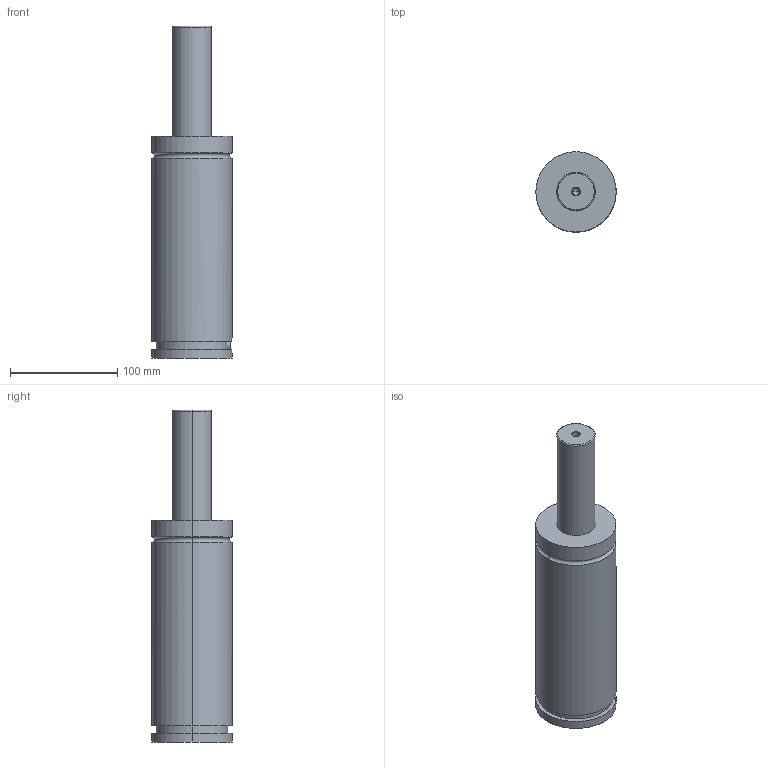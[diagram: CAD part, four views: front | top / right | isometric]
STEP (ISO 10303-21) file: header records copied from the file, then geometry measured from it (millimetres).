
FILE_DESCRIPTION(/* description */ (''),/* implementation_level */ '2;1');
FILE_NAME(/* name */ '3d_gse75-100_03852_r00.stp',/* time_stamp */ '2011-01-10T14:15:18+09:00',/* author */ ('MISUMI'),/* organization */ (''),/* preprocessor_version */ 'ST-DEVELOPER v11',/* originating_system */ 'UGS - NX 5.0',/* authorisation */ '');
FILE_SCHEMA (('CONFIG_CONTROL_DESIGN'));
Length unit declared in the file: millimetre
Products named in the file (1): 3d_gse75-100_03852_r00
Bounding box: 75 x 75 x 310 mm (x, y, z)
Volume: 1006143 mm3; surface area: 73879.8 mm2
Topology: 1 solids, 1 shells, 75 faces, 161 edges, 103 vertices
Faces by surface type: cylinder 34, plane 27, cone 10, torus 4
Entity records: 2145 total; most frequent: DIRECTION 393, CARTESIAN_POINT 360, ORIENTED_EDGE 318, AXIS2_PLACEMENT_3D 164, EDGE_CURVE 159, VERTEX_POINT 103, EDGE_LOOP 92, CIRCLE 88
